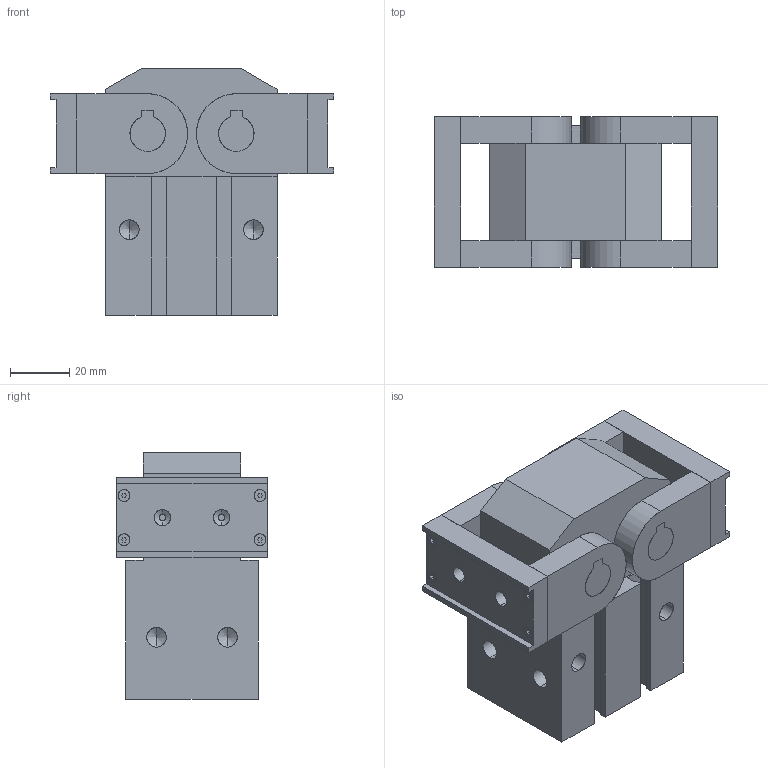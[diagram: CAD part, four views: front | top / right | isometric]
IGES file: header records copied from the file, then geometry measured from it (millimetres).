
Start section: SolidWorks IGES file using analytic representation for surfaces
Global section: file name: C:\Documents and Settings\1EDPI\Mes documents\Kevin 17.01.13\ghk\ghk32\GHK 32 open.IGS; native system: SolidWorks 2010; preprocessor: SolidWorks 2010; author: 1EDPI; date: 130304.105057; units: millimetre
Bounding box: 96 x 51 x 83.5 mm (x, y, z)
Surface area: 51204.3 mm2 (no closed solid volume)
Topology: 0 solids, 0 shells, 277 faces, 3348 edges, 3328 vertices
Faces by surface type: bspline 181, revolution 96
